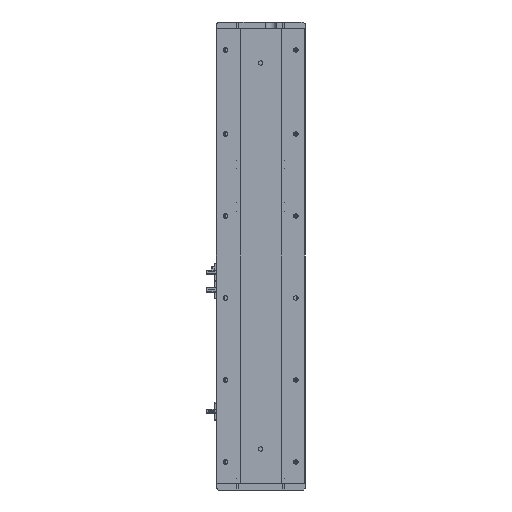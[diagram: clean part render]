
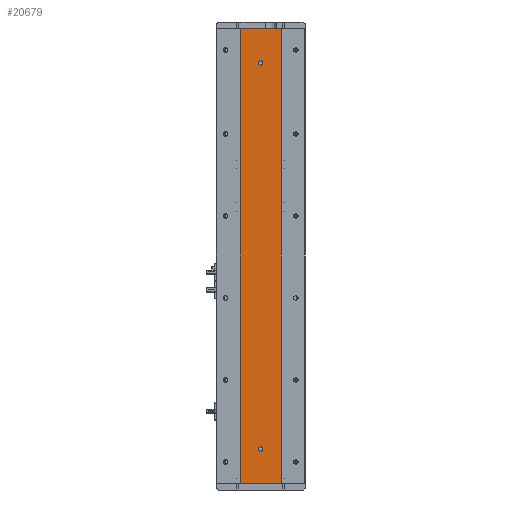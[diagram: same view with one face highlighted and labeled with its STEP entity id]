
A CAD part, left-side view. The second image highlights one B-rep face of the part: STEP entity #20679.
In plain terms, the highlighted planar face has unit normal (-1, 0, 0).
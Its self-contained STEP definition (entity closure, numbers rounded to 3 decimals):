
#1223 = LINE ( 'NONE', #3918, #6969 ) ;
#1245 = EDGE_CURVE ( 'NONE', #2611, #18955, #13327, .T. ) ;
#1350 = VERTEX_POINT ( 'NONE', #26496 ) ;
#2063 = ORIENTED_EDGE ( 'NONE', *, *, #21555, .T. ) ;
#2611 = VERTEX_POINT ( 'NONE', #9502 ) ;
#2624 = CARTESIAN_POINT ( 'NONE',  ( -24.994, 0., 50. ) ) ;
#3497 = DIRECTION ( 'NONE',  ( 0., 0., -1. ) ) ;
#3602 = EDGE_CURVE ( 'NONE', #20068, #1350, #7821, .T. ) ;
#3918 = CARTESIAN_POINT ( 'NONE',  ( -24.994, -29.785, 665. ) ) ;
#4174 = CARTESIAN_POINT ( 'NONE',  ( -24.994, -29.785, 0. ) ) ;
#5099 = DIRECTION ( 'NONE',  ( 0., 0., 1. ) ) ;
#5179 = AXIS2_PLACEMENT_3D ( 'NONE', #7933, #25254, #10462 ) ;
#5656 = CARTESIAN_POINT ( 'NONE',  ( -24.994, 0., 618. ) ) ;
#5663 = ORIENTED_EDGE ( 'NONE', *, *, #1245, .F. ) ;
#6132 = DIRECTION ( 'NONE',  ( -1., 0., 0. ) ) ;
#6466 = CARTESIAN_POINT ( 'NONE',  ( -24.994, 0., 50. ) ) ;
#6608 = DIRECTION ( 'NONE',  ( 0., -1., 0. ) ) ;
#6969 = VECTOR ( 'NONE', #23712, 1000. ) ;
#7821 = CIRCLE ( 'NONE', #19633, 3. ) ;
#7933 = CARTESIAN_POINT ( 'NONE',  ( -24.994, 29.785, 665. ) ) ;
#8971 = DIRECTION ( 'NONE',  ( 0., 0., 1. ) ) ;
#9502 = CARTESIAN_POINT ( 'NONE',  ( -24.994, 0., 612. ) ) ;
#9703 = EDGE_LOOP ( 'NONE', ( #10837, #5663 ) ) ;
#10031 = AXIS2_PLACEMENT_3D ( 'NONE', #21032, #6132, #23478 ) ;
#10340 = PLANE ( 'NONE',  #5179 ) ;
#10462 = DIRECTION ( 'NONE',  ( 0., 0., -1. ) ) ;
#10670 = EDGE_CURVE ( 'NONE', #18955, #2611, #31698, .T. ) ;
#10837 = ORIENTED_EDGE ( 'NONE', *, *, #10670, .F. ) ;
#11224 = FACE_OUTER_BOUND ( 'NONE', #21928, .T. ) ;
#12406 = CARTESIAN_POINT ( 'NONE',  ( -24.994, 0., 615. ) ) ;
#12736 = VECTOR ( 'NONE', #6608, 1000. ) ;
#12791 = EDGE_CURVE ( 'NONE', #1350, #20068, #14376, .T. ) ;
#13045 = ORIENTED_EDGE ( 'NONE', *, *, #29548, .F. ) ;
#13154 = VERTEX_POINT ( 'NONE', #19048 ) ;
#13327 = CIRCLE ( 'NONE', #10031, 3. ) ;
#13744 = ORIENTED_EDGE ( 'NONE', *, *, #3602, .F. ) ;
#14123 = CARTESIAN_POINT ( 'NONE',  ( -24.994, 29.785, 665. ) ) ;
#14376 = CIRCLE ( 'NONE', #22516, 3. ) ;
#14913 = DIRECTION ( 'NONE',  ( 0., 0., 1. ) ) ;
#15453 = VERTEX_POINT ( 'NONE', #32120 ) ;
#16010 = EDGE_CURVE ( 'NONE', #13154, #15453, #26290, .T. ) ;
#16125 = CARTESIAN_POINT ( 'NONE',  ( -24.994, 0., 53. ) ) ;
#16213 = EDGE_CURVE ( 'NONE', #13154, #23184, #25883, .T. ) ;
#16256 = FACE_BOUND ( 'NONE', #9703, .T. ) ;
#18107 = ORIENTED_EDGE ( 'NONE', *, *, #16010, .T. ) ;
#18453 = ORIENTED_EDGE ( 'NONE', *, *, #16213, .F. ) ;
#18955 = VERTEX_POINT ( 'NONE', #5656 ) ;
#19048 = CARTESIAN_POINT ( 'NONE',  ( -24.994, 29.785, 665. ) ) ;
#19633 = AXIS2_PLACEMENT_3D ( 'NONE', #6466, #23809, #8971 ) ;
#19748 = VECTOR ( 'NONE', #3497, 1000. ) ;
#19780 = EDGE_LOOP ( 'NONE', ( #13744, #25191 ) ) ;
#19965 = DIRECTION ( 'NONE',  ( -1., 0., 0. ) ) ;
#20068 = VERTEX_POINT ( 'NONE', #16125 ) ;
#20433 = VECTOR ( 'NONE', #28893, 1000. ) ;
#20679 = ADVANCED_FACE ( 'NONE', ( #16256, #22830, #11224 ), #10340, .F. ) ;
#20913 = CARTESIAN_POINT ( 'NONE',  ( -24.994, -29.785, 665. ) ) ;
#21032 = CARTESIAN_POINT ( 'NONE',  ( -24.994, 0., 615. ) ) ;
#21532 = AXIS2_PLACEMENT_3D ( 'NONE', #12406, #29745, #14913 ) ;
#21555 = EDGE_CURVE ( 'NONE', #15453, #22267, #26998, .T. ) ;
#21928 = EDGE_LOOP ( 'NONE', ( #2063, #13045, #18453, #18107 ) ) ;
#22267 = VERTEX_POINT ( 'NONE', #4174 ) ;
#22516 = AXIS2_PLACEMENT_3D ( 'NONE', #2624, #19965, #5099 ) ;
#22830 = FACE_BOUND ( 'NONE', #19780, .T. ) ;
#23184 = VERTEX_POINT ( 'NONE', #20913 ) ;
#23478 = DIRECTION ( 'NONE',  ( 0., 0., 1. ) ) ;
#23712 = DIRECTION ( 'NONE',  ( 0., 0., -1. ) ) ;
#23809 = DIRECTION ( 'NONE',  ( -1., 0., 0. ) ) ;
#25191 = ORIENTED_EDGE ( 'NONE', *, *, #12791, .F. ) ;
#25254 = DIRECTION ( 'NONE',  ( 1., 0., 0. ) ) ;
#25883 = LINE ( 'NONE', #14123, #12736 ) ;
#26290 = LINE ( 'NONE', #30710, #19748 ) ;
#26496 = CARTESIAN_POINT ( 'NONE',  ( -24.994, 0., 47. ) ) ;
#26998 = LINE ( 'NONE', #28778, #20433 ) ;
#28778 = CARTESIAN_POINT ( 'NONE',  ( -24.994, 29.785, 0. ) ) ;
#28893 = DIRECTION ( 'NONE',  ( 0., -1., 0. ) ) ;
#29548 = EDGE_CURVE ( 'NONE', #23184, #22267, #1223, .T. ) ;
#29745 = DIRECTION ( 'NONE',  ( -1., 0., 0. ) ) ;
#30710 = CARTESIAN_POINT ( 'NONE',  ( -24.994, 29.785, 665. ) ) ;
#31698 = CIRCLE ( 'NONE', #21532, 3. ) ;
#32120 = CARTESIAN_POINT ( 'NONE',  ( -24.994, 29.785, 0. ) ) ;
